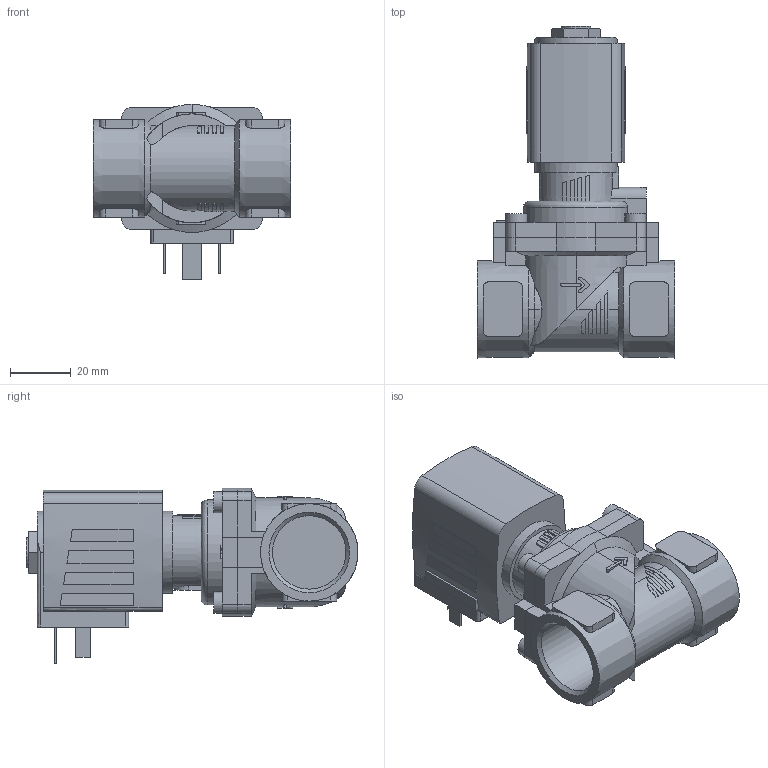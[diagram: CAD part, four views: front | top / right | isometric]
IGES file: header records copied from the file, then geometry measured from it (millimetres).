
Start section: Data from Parasolid IGES Translator 26.0.171, Copyright(c) 2006 Siemens PLM Software. All Rights Reserved.
Global section: file name: 6281-361627-2_2-Way_Solenoid_Valve__Servo-assisted__General_Purpose.igs; native system: By Siemens PLM Incorporated; preprocessor: XPlus GENERIC/IGES 26.0.171; author: Noname; organization: Noname; date: 20240526.212254; units: millimetre
Bounding box: 65 x 109 x 57.5 mm (x, y, z)
Surface area: 31503.9 mm2 (no closed solid volume)
Topology: 0 solids, 0 shells, 366 faces, 1934 edges, 1927 vertices
Faces by surface type: extrusion 238, revolution 128
